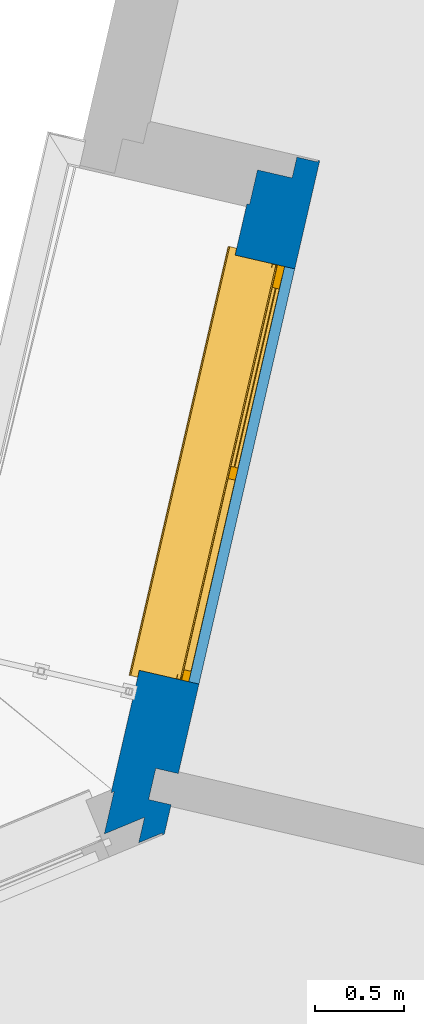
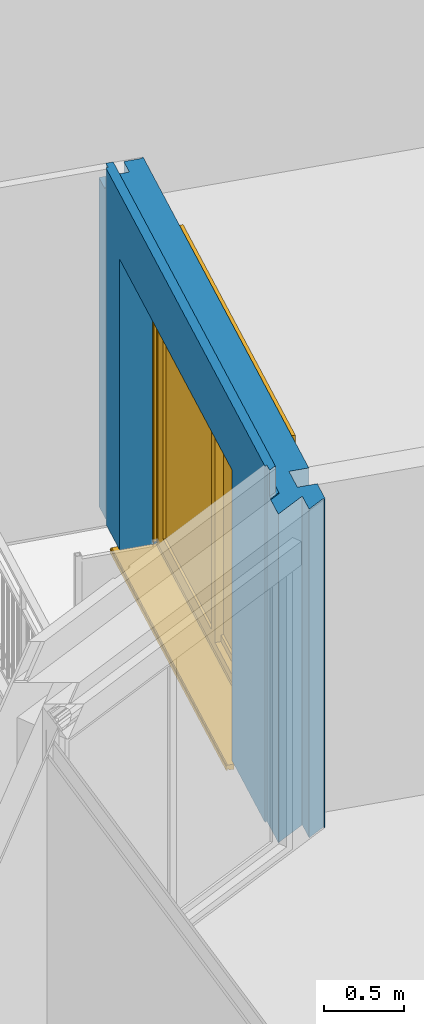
# One storey, part 18 of 91: 1 wall, 1 window, 1 opening.
"""IFC2X3 building model written with IfcOpenShell, lengths in metres."""

from ifc_helpers import new_model, entity, si_unit, converted_unit, derived_unit, money_unit, direction, frame, origin_with_axes, place, context, subcontext, project, spatial, open_shell, faceted_brep, surface_model, source, transform, mapped, material, material_list, type_object, element, fill, save


model = new_model("IFC2X3")

# Units and contexts
model_context = context("Model", 3, precision=1e-05, world=origin_with_axes(), true_north=direction((0.0, 1.0)))
body_context = subcontext(model_context, "Body", "Model", "MODEL_VIEW")
ifc_project = project(units=[si_unit("LENGTHUNIT", "METRE"), si_unit("AREAUNIT", "SQUARE_METRE"), si_unit("VOLUMEUNIT", "CUBIC_METRE"), converted_unit("PLANEANGLEUNIT", "DEGREE", entity("IfcPlaneAngleMeasure", 0.0174532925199), si_unit("PLANEANGLEUNIT", "RADIAN"), dimensions=[0, 0, 0, 0, 0, 0, 0]), si_unit("SOLIDANGLEUNIT", "STERADIAN"), money_unit("EUR"), converted_unit("TIMEUNIT", "Year", entity("IfcTimeMeasure", 31556926.0), si_unit("TIMEUNIT", "SECOND"), dimensions=[0, 0, 1, 0, 0, 0, 0]), si_unit("MASSUNIT", "GRAM", prefix="KILO"), si_unit("THERMODYNAMICTEMPERATUREUNIT", "DEGREE_CELSIUS"), si_unit("LUMINOUSINTENSITYUNIT", "LUMEN"), si_unit("ENERGYUNIT", "JOULE", prefix="MEGA"), derived_unit("THERMALCONDUCTANCEUNIT", [(si_unit("POWERUNIT", "WATT"), 1), (si_unit("LENGTHUNIT", "METRE"), -1), (si_unit("THERMODYNAMICTEMPERATUREUNIT", "KELVIN"), -1)]), derived_unit("SPECIFICHEATCAPACITYUNIT", [(si_unit("ENERGYUNIT", "JOULE"), 1), (si_unit("MASSUNIT", "GRAM", prefix="KILO"), -1), (si_unit("THERMODYNAMICTEMPERATUREUNIT", "KELVIN"), -1)]), derived_unit("MASSDENSITYUNIT", [(si_unit("MASSUNIT", "GRAM", prefix="KILO"), 1), (si_unit("VOLUMEUNIT", "CUBIC_METRE"), -1)])], contexts=[model_context])

# Site, building, storey
site_placement = place(None, origin_with_axes())
site = spatial("IfcSite", under=ifc_project, at=site_placement, Name="Site", CompositionType="ELEMENT")
building_placement = place(site_placement, origin_with_axes())
building = spatial("IfcBuilding", under=site, at=building_placement, Name="Bâtiment", CompositionType="ELEMENT")
storey_placement = place(building_placement, frame((0.0, 0.0, 5.44), z_axis=(0.0, 0.0, 1.0), x_axis=(1.0, 0.0, 0.0)))
storey = spatial("IfcBuildingStorey", under=building, at=storey_placement, Name="R+2", CompositionType="ELEMENT", Elevation=5.44)

# Wall, opening, window
ifc_material_1 = material(Name="Finition int - Plaque de plâtre")
ifc_material_2 = material(Name="Isolation - Polystyrène extrudé")
ifc_material_3 = material(Name="Bloc ELITHERM")
ifc_material_4 = material(Name="Mortier")
ifc_material_5 = material(Name="Béton cellulaire")
ifc_material_6 = material(Name="Finition ext - Crépis")
ifc_material_list = material_list([ifc_material_1, ifc_material_2, ifc_material_3, ifc_material_4, ifc_material_5, ifc_material_6])
wall_type = type_object("IfcWallType", Name="Mur ALKERN + planelle 21 345 x 2720", PredefinedType="USERDEFINED")
wall_placement = place(storey_placement, frame((-19.0200334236, -9.47366806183, 0.0), z_axis=(0.0, 0.0, 1.0), x_axis=(-0.224876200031, -0.974387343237, 0.0)))
wall = element("IfcWall", 1, at=wall_placement, inside=storey, type_object=wall_type, material=ifc_material_list, Name="Mue bloc ALKERN isolé", ObjectType="SOLIDWALL", context=body_context, shape_type="Brep", body=[
    faceted_brep([(3.54839986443, 0.34499998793, 0.0), (3.37853279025, 0.34499998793, 0.0), (3.37853279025, 0.34499998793, 2.50999999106), (3.54839986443, 0.34499998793, 2.51000000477), (3.55553862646, 0.335000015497, 0.0), (3.37853279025, 0.335000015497, 0.0), (3.37853279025, 0.335000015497, 2.50999999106), (3.55553862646, 0.335000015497, 2.51000000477)], [[[0, 1, 2, 3]], [[4, 5, 1, 0]], [[5, 6, 2, 1]], [[3, 2, 6, 7]], [[7, 4, 0, 3]], [[7, 6, 5, 4]]]),
    faceted_brep([(3.19853279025, 0.34499998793, 0.0), (-0.344999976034, 0.34499998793, 0.0), (-0.344999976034, 0.34499998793, 2.51000000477), (3.19853279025, 0.34499998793, 2.50999999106), (2.68107656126, 0.34499998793, 2.22), (2.68107656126, 0.34499998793, 2.4), (0.281076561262, 0.34499998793, 2.4), (0.281076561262, 0.34499998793, 2.22), (0.281076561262, 0.34499998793, 0.02), (2.68107656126, 0.34499998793, 0.02), (3.19853279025, 0.335000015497, 0.0), (-0.344999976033, 0.335000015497, 0.0), (-0.344999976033, 0.335000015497, 2.51000000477), (3.19853279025, 0.335000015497, 2.50999999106), (2.68107656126, 0.335000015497, 2.22), (2.68107656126, 0.335000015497, 2.4), (0.281076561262, 0.335000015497, 2.4), (0.281076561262, 0.335000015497, 2.22), (0.281076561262, 0.335000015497, 0.02), (2.68107656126, 0.335000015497, 0.02)], [[[0, 1, 2, 3], [4, 5, 6, 7, 8, 9]], [[10, 11, 1, 0]], [[12, 2, 1, 11]], [[3, 2, 12, 13]], [[3, 13, 10, 0]], [[5, 4, 14, 15]], [[6, 5, 15, 16]], [[7, 6, 16, 17]], [[7, 17, 18, 8]], [[8, 18, 19, 9]], [[14, 4, 9, 19]], [[13, 12, 11, 10], [15, 14, 19, 18, 17, 16]]]),
    faceted_brep([(3.54325200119, 0.335000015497, 0.0), (3.37853279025, 0.335000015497, 0.0), (3.37853279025, 0.335000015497, 2.50999999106), (3.54325200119, 0.335000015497, 2.51), (3.62891738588, 0.215000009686, 0.0), (3.37853279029, 0.215000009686, 0.0), (3.37853279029, 0.215000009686, 2.50999999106), (3.62891738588, 0.215000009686, 2.51)], [[[0, 1, 2, 3]], [[4, 5, 1, 0]], [[5, 6, 2, 1]], [[3, 2, 6, 7]], [[4, 0, 3, 7]], [[7, 6, 5, 4]]]),
    faceted_brep([(0.281076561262, 0.215000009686, 0.02), (0.281076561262, 0.215000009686, 0.0), (0.281076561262, 0.286, 0.0), (0.281076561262, 0.286, 0.02), (0.281076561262, 0.335000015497, 0.02), (0.281076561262, 0.335000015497, 2.22), (0.281076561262, 0.335000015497, 2.4), (0.281076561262, 0.215, 2.4), (0.281076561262, 0.215, 2.22), (2.68107656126, 0.215, 2.4), (2.68107656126, 0.215, 2.22), (2.68107656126, 0.215000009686, 0.02), (2.68107656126, 0.215000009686, 0.0), (3.19853279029, 0.215000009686, 0.0), (3.19853279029, 0.215000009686, 2.50999999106), (-0.335000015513, 0.215000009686, 2.51), (-0.335000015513, 0.215000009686, 0.0), (-0.335000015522, 0.335000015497, 0.0), (3.19853279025, 0.335000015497, 0.0), (2.68107656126, 0.286, 0.0), (2.68107656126, 0.286, 0.02), (2.68107656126, 0.335000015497, 0.02), (-0.335000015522, 0.335000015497, 2.51), (3.19853279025, 0.335000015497, 2.50999999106), (2.68107656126, 0.335000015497, 2.22), (2.68107656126, 0.335000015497, 2.4)], [[[0, 1, 2, 3, 4, 5, 6, 7, 8]], [[1, 0, 8, 7, 9, 10, 11, 12, 13, 14, 15, 16]], [[2, 1, 16, 17, 18, 13, 12, 19]], [[20, 3, 2, 19]], [[3, 20, 21, 4]], [[18, 17, 22, 23], [5, 4, 21, 24, 25, 6]], [[25, 9, 7, 6]], [[20, 19, 12, 11, 10, 9, 25, 24, 21]], [[13, 18, 23, 14]], [[23, 22, 15, 14]], [[16, 15, 22, 17]]]),
    faceted_brep([(0.281076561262, 0.214999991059, 2.22), (0.281076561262, 0.214999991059, 0.02), (0.281076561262, 0.214999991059, 0.0), (-0.215000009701, 0.214999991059, 0.0), (-0.215000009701, 0.214999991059, 2.51), (3.48147737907, 0.214999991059, 2.51), (3.48147737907, 0.214999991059, 0.0), (2.68107656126, 0.214999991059, 0.0), (2.68107656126, 0.214999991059, 0.02), (2.68107656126, 0.214999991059, 2.22), (0.281076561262, 0.015, 2.22), (0.281076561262, 0.015, 0.02), (0.281076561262, 0.015, 0.0), (-0.215000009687, 0.015, 0.0), (-0.215000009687, 0.015, 2.51), (-0.215000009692, 0.0829999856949, 2.51), (3.57570930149, 0.0829999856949, 2.51), (3.62425300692, 0.015, 2.51), (3.62425300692, 0.015, 0.0), (2.68107656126, 0.015, 0.0), (2.68107656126, 0.015, 0.02), (2.68107656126, 0.015, 2.22)], [[[0, 1, 2, 3, 4, 5, 6, 7, 8, 9]], [[10, 11, 12, 2, 1, 0]], [[3, 2, 12, 13]], [[13, 14, 15, 4, 3]], [[15, 16, 5, 4]], [[17, 18, 6, 5, 16]], [[18, 19, 7, 6]], [[9, 8, 7, 19, 20, 21]], [[0, 9, 21, 10]], [[13, 12, 11, 10, 21, 20, 19, 18, 17, 14]], [[14, 17, 16, 15]]]),
    faceted_brep([(-0.0829999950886, 0.083, 2.51000000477), (-0.0829999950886, 0.083, 2.51999998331), (3.41352526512, 0.083, 2.51999998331), (3.41352526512, 0.083, 2.51000000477), (-0.0829999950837, 0.015, 2.51000000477), (-0.0829999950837, 0.015, 2.51999998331), (3.46206898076, 0.015, 2.51999998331), (3.46206898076, 0.015, 2.51000000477)], [[[0, 1, 2, 3]], [[1, 0, 4, 5]], [[1, 5, 6, 2]], [[3, 2, 6, 7]], [[4, 0, 3, 7]], [[5, 4, 7, 6]]]),
    faceted_brep([(-0.0630000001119, 0.0629999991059, 2.51999999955), (-0.0630000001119, 0.0629999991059, 2.72), (3.40322949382, 0.0629999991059, 2.72), (3.40322949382, 0.0629999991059, 2.51999999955), (-0.0630000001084, 0.015, 2.72), (-0.0630000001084, 0.015, 2.51999999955), (3.4374956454, 0.015, 2.72), (3.4374956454, 0.015, 2.51999999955)], [[[0, 1, 2, 3]], [[4, 1, 0, 5]], [[1, 4, 6, 2]], [[3, 2, 6, 7]], [[5, 0, 3, 7]], [[4, 5, 7, 6]]]),
    faceted_brep([(0.281076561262, 0.0149999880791, 0.02), (0.281076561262, 0.0149999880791, 0.0), (-0.0150000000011, 0.0149999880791, 0.0), (-0.0150000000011, 0.0149999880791, 2.72), (3.37851964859, 0.0149999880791, 2.72), (3.37851964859, 0.0149999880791, 0.0), (2.68107656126, 0.0149999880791, 0.0), (2.68107656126, 0.0149999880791, 0.02), (2.68107656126, 0.0149999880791, 2.22), (0.281076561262, 0.0149999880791, 2.22), (0.281076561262, 0.0, 0.02), (0.281076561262, 0.0, 0.0), (0.281076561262, 0.0, 2.22), (-0.015, 0.0, 0.0), (-0.015, 0.0, 2.72), (3.38922781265, 0.0, 2.72), (3.38922781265, 0.0, 0.0), (2.68107656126, 0.0, 0.0), (2.68107656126, 0.0, 0.02), (2.68107656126, 0.0, 2.22)], [[[0, 1, 2, 3, 4, 5, 6, 7, 8, 9]], [[10, 11, 1, 0, 9, 12]], [[1, 11, 13, 2]], [[3, 2, 13, 14]], [[14, 15, 4, 3]], [[15, 16, 5, 4]], [[17, 6, 5, 16]], [[7, 6, 17, 18, 19, 8]], [[8, 19, 12, 9]], [[11, 10, 12, 19, 18, 17, 16, 15, 14, 13]]]),
])
opening_placement = place(wall_placement, frame((1.48107656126, 0.0, 0.02), z_axis=(0.0, 0.0, 1.0), x_axis=(1.0, 0.0, 0.0)))
opening = element("IfcOpeningElement", 2, at=opening_placement, cuts=wall, Name="MEN 80", context=body_context, shape_type="Brep", body=[
    faceted_brep([(-1.2, 0.83499998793, 0.0), (1.2, 0.83499998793, 0.0), (1.2, 0.245, 0.0), (-1.2, 0.245, 0.0), (-1.2, 0.83499998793, 2.2), (1.2, 0.83499998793, 2.2), (1.2, 0.245, 2.2), (-1.2, 0.245, 2.2)], [[[0, 1, 2, 3]], [[0, 4, 5, 1]], [[1, 5, 6, 2]], [[3, 2, 6, 7]], [[4, 0, 3, 7]], [[5, 4, 7, 6]]]),
    faceted_brep([(-1.2, -0.34499998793, 0.0), (-1.2, -0.34499998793, 2.2), (-1.2, 0.245, 2.2), (-1.2, 0.245, 0.0), (1.2, -0.34499998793, 0.0), (1.2, -0.34499998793, 2.2), (1.2, 0.245, 2.2), (1.2, 0.245, 0.0)], [[[0, 1, 2, 3]], [[0, 4, 5, 1]], [[1, 5, 6, 2]], [[3, 2, 6, 7]], [[4, 0, 3, 7]], [[5, 4, 7, 6]]]),
    faceted_brep([(-1.2, -0.34499998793, 0.0), (-1.2, -0.34499998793, 2.2), (-1.2, 0.245, 2.2), (-1.2, 0.245, 0.0), (1.2, -0.34499998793, 0.0), (1.2, -0.34499998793, 2.2), (1.2, 0.245, 2.2), (1.2, 0.245, 0.0)], [[[0, 1, 2, 3]], [[0, 4, 5, 1]], [[1, 5, 6, 2]], [[3, 2, 6, 7]], [[4, 0, 3, 7]], [[5, 4, 7, 6]]]),
    faceted_brep([(-1.2, 0.80499998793, 2.2), (1.2, 0.80499998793, 2.2), (1.2, 0.215, 2.2), (-1.2, 0.215, 2.2), (-1.2, 0.80499998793, 2.38), (1.2, 0.80499998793, 2.38), (1.2, 0.215, 2.38), (-1.2, 0.215, 2.38)], [[[0, 1, 2, 3]], [[0, 4, 5, 1]], [[1, 5, 6, 2]], [[3, 2, 6, 7]], [[4, 0, 3, 7]], [[5, 4, 7, 6]]]),
    faceted_brep([(-1.2, -0.30399998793, 0.0), (1.2, -0.30399998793, 0.0), (1.2, 0.286, 0.0), (-1.2, 0.286, 0.0), (-1.2, -0.30399998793, -0.06), (1.2, -0.30399998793, -0.06), (1.2, 0.286, -0.06), (-1.2, 0.286, -0.06)], [[[0, 1, 2, 3]], [[0, 4, 5, 1]], [[1, 5, 6, 2]], [[3, 2, 6, 7]], [[4, 0, 3, 7]], [[5, 4, 7, 6]]]),
])
window_style = type_object("IfcWindowStyle", Name="Baie générique 2017 v2", ConstructionType="NOTDEFINED", OperationType="NOTDEFINED", ParameterTakesPrecedence=False, Sizeable=False)
shared_shape = source(origin_with_axes(), body_context, "Body", "SurfaceModel", [
    faceted_brep([(-1.2, 0.1, 0.0), (1.2, 0.1, 0.0), (1.2, 0.0, 0.0), (-1.2, 0.0, 0.0), (-1.2, 0.1, 2.2), (1.2, 0.1, 2.2), (-1.14, 0.1, 0.05), (1.14, 0.1, 0.05), (1.14, 0.1, 2.15), (-1.14, 0.1, 2.15), (1.2, 0.0, 2.2), (-1.2, 0.0, 2.2), (-1.14, 0.0, 0.05), (-1.14, 0.0, 2.15), (1.14, 0.0, 2.15), (1.14, 0.0, 0.05)], [[[0, 1, 2, 3]], [[0, 4, 5, 1], [6, 7, 8, 9]], [[1, 5, 10, 2]], [[3, 2, 10, 11], [12, 13, 14, 15]], [[4, 0, 3, 11]], [[5, 4, 11, 10]], [[7, 6, 12, 15]], [[8, 7, 15, 14]], [[9, 8, 14, 13]], [[6, 9, 13, 12]]]),
    faceted_brep([(-1.14, 0.04, 0.05), (-1.14, 0.04, 2.15), (0.035, 0.04, 2.15), (0.035, 0.04, 0.05), (-0.035, 0.04, 2.08), (-1.07, 0.04, 2.08), (-1.07, 0.04, 0.1), (-0.035, 0.04, 0.1), (-1.14, 0.0, 2.15), (-1.14, 0.02, 2.15), (-1.14, 0.02, 0.05), (-1.14, 0.0, 0.05), (0.035, 0.0, 2.15), (0.035, 0.02, 2.15), (0.035, 0.0, 0.05), (0.035, 0.02, 0.05), (-0.035, 0.0, 2.08), (-1.07, 0.0, 2.08), (-1.07, 0.0, 0.1), (-0.035, 0.0, 0.1)], [[[0, 1, 2, 3], [4, 5, 6, 7]], [[8, 9, 1, 0, 10, 11]], [[12, 13, 2, 1, 9, 8]], [[13, 12, 14, 15, 3, 2]], [[15, 14, 11, 10, 0, 3]], [[5, 4, 16, 17]], [[18, 6, 5, 17]], [[19, 7, 6, 18]], [[4, 7, 19, 16]], [[12, 8, 11, 14], [19, 18, 17, 16]]]),
    surface_model("IfcShellBasedSurfaceModel", [(-1.14, 0.04, 0.05), (-1.14, 0.04, 2.15), (0.035, 0.04, 2.15), (0.035, 0.04, 0.05), (-1.07, 0.04, 0.1), (-0.035, 0.04, 0.1), (-0.035, 0.04, 2.08), (-1.07, 0.04, 2.08)], [open_shell([[[0, 1, 2, 3], [4, 5, 6, 7]]])]),
    surface_model("IfcShellBasedSurfaceModel", [(-1.14, 0.0, 0.05), (-1.14, 0.0, 2.15), (0.035, 0.0, 2.15), (0.035, 0.0, 0.05), (-1.07, 0.0, 0.1), (-0.035, 0.0, 0.1), (-0.035, 0.0, 2.08), (-1.07, 0.0, 2.08)], [open_shell([[[0, 1, 2, 3], [4, 5, 6, 7]]])]),
    faceted_brep([(-1.07, 0.0225, 0.1), (-0.035, 0.0225, 0.1), (-0.035, 0.0175, 0.1), (-1.07, 0.0175, 0.1), (-1.07, 0.0225, 2.08), (-0.035, 0.0225, 2.08), (-0.035, 0.0175, 2.08), (-1.07, 0.0175, 2.08)], [[[0, 1, 2, 3]], [[0, 4, 5, 1]], [[1, 5, 6, 2]], [[3, 2, 6, 7]], [[4, 0, 3, 7]], [[5, 4, 7, 6]]]),
    faceted_brep([(-0.035, 0.08, 0.05), (-0.035, 0.08, 2.15), (1.14, 0.08, 2.15), (1.14, 0.08, 0.05), (1.07, 0.08, 2.08), (0.035, 0.08, 2.08), (0.035, 0.08, 0.1), (1.07, 0.08, 0.1), (-0.035, 0.04, 2.15), (-0.035, 0.06, 2.15), (-0.035, 0.06, 0.05), (-0.035, 0.04, 0.05), (1.14, 0.04, 2.15), (1.14, 0.06, 2.15), (1.14, 0.04, 0.05), (1.14, 0.06, 0.05), (1.07, 0.04, 2.08), (0.035, 0.04, 2.08), (0.035, 0.04, 0.1), (1.07, 0.04, 0.1)], [[[0, 1, 2, 3], [4, 5, 6, 7]], [[8, 9, 1, 0, 10, 11]], [[12, 13, 2, 1, 9, 8]], [[13, 12, 14, 15, 3, 2]], [[15, 14, 11, 10, 0, 3]], [[5, 4, 16, 17]], [[18, 6, 5, 17]], [[19, 7, 6, 18]], [[4, 7, 19, 16]], [[12, 8, 11, 14], [19, 18, 17, 16]]]),
    surface_model("IfcShellBasedSurfaceModel", [(-0.035, 0.08, 0.05), (-0.035, 0.08, 2.15), (1.14, 0.08, 2.15), (1.14, 0.08, 0.05), (0.035, 0.08, 0.1), (1.07, 0.08, 0.1), (1.07, 0.08, 2.08), (0.035, 0.08, 2.08)], [open_shell([[[0, 1, 2, 3], [4, 5, 6, 7]]])]),
    surface_model("IfcShellBasedSurfaceModel", [(-0.035, 0.04, 0.05), (-0.035, 0.04, 2.15), (1.14, 0.04, 2.15), (1.14, 0.04, 0.05), (0.035, 0.04, 0.1), (1.07, 0.04, 0.1), (1.07, 0.04, 2.08), (0.035, 0.04, 2.08)], [open_shell([[[0, 1, 2, 3], [4, 5, 6, 7]]])]),
    faceted_brep([(0.035, 0.0625, 0.1), (1.07, 0.0625, 0.1), (1.07, 0.0575, 0.1), (0.035, 0.0575, 0.1), (0.035, 0.0625, 2.08), (1.07, 0.0625, 2.08), (1.07, 0.0575, 2.08), (0.035, 0.0575, 2.08)], [[[0, 1, 2, 3]], [[0, 4, 5, 1]], [[1, 5, 6, 2]], [[3, 2, 6, 7]], [[4, 0, 3, 7]], [[5, 4, 7, 6]]]),
    faceted_brep([(-1.2, -0.03, 0.0), (-1.175, -0.03, 0.0), (-1.175, -0.03, 2.2), (-1.2, -0.03, 2.2), (-1.2, -0.002, 0.0), (-1.175, -0.002, 0.0), (-1.175, -0.004, 0.0), (-1.198, -0.004, 0.0), (-1.198, -0.028, 0.0), (-1.175, -0.028, 0.0), (-1.175, -0.028, 2.2), (-1.198, -0.028, 2.2), (-1.198, -0.004, 2.2), (-1.175, -0.004, 2.2), (-1.175, -0.002, 2.2), (-1.2, -0.002, 2.2)], [[[0, 1, 2, 3]], [[0, 4, 5, 6, 7, 8, 9, 1]], [[1, 9, 10, 2]], [[3, 2, 10, 11, 12, 13, 14, 15]], [[4, 0, 3, 15]], [[5, 4, 15, 14]], [[6, 5, 14, 13]], [[7, 6, 13, 12]], [[8, 7, 12, 11]], [[9, 8, 11, 10]]]),
    faceted_brep([(1.2, -0.03, 0.0), (1.2, -0.03, 2.2), (1.175, -0.03, 2.2), (1.175, -0.03, 0.0), (1.2, -0.002, 0.0), (1.2, -0.002, 2.2), (1.175, -0.002, 2.2), (1.175, -0.004, 2.2), (1.198, -0.004, 2.2), (1.198, -0.028, 2.2), (1.175, -0.028, 2.2), (1.175, -0.028, 0.0), (1.198, -0.028, 0.0), (1.198, -0.004, 0.0), (1.175, -0.004, 0.0), (1.175, -0.002, 0.0)], [[[0, 1, 2, 3]], [[4, 5, 1, 0]], [[1, 5, 6, 7, 8, 9, 10, 2]], [[3, 2, 10, 11]], [[0, 3, 11, 12, 13, 14, 15, 4]], [[15, 6, 5, 4]], [[14, 7, 6, 15]], [[13, 8, 7, 14]], [[12, 9, 8, 13]], [[11, 10, 9, 12]]]),
    faceted_brep([(1.198, -0.028, 2.2), (-1.198, -0.028, 2.2), (-1.198, -0.028, 2.378), (1.198, -0.028, 2.378), (1.198, -0.03, 2.2), (-1.198, -0.03, 2.2), (-1.198, -0.03, 2.38), (-1.198, 0.17, 2.38), (-1.198, 0.17, 2.2), (-1.198, 0.168, 2.2), (-1.198, 0.168, 2.378), (1.198, 0.168, 2.378), (1.198, 0.168, 2.2), (1.198, 0.17, 2.2), (1.198, 0.17, 2.38), (1.198, -0.03, 2.38)], [[[0, 1, 2, 3]], [[4, 5, 1, 0]], [[1, 5, 6, 7, 8, 9, 10, 2]], [[3, 2, 10, 11]], [[0, 3, 11, 12, 13, 14, 15, 4]], [[15, 6, 5, 4]], [[14, 7, 6, 15]], [[13, 8, 7, 14]], [[12, 9, 8, 13]], [[11, 10, 9, 12]]]),
    faceted_brep([(1.198, 0.0724697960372, 2.27436337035), (1.198, 0.08, 2.29), (1.198, 0.0724697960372, 2.30563662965), (1.198, 0.0555495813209, 2.30949855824), (1.198, 0.041980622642, 2.29867767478), (1.198, 0.041980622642, 2.28132232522), (1.198, 0.0555495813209, 2.27050144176), (-1.198, 0.0724697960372, 2.27436337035), (-1.198, 0.08, 2.29), (-1.198, 0.0724697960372, 2.30563662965), (-1.198, 0.0555495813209, 2.30949855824), (-1.198, 0.041980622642, 2.29867767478), (-1.198, 0.041980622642, 2.28132232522), (-1.198, 0.0555495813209, 2.27050144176)], [[[0, 1, 2, 3, 4, 5, 6]], [[0, 7, 8, 1]], [[1, 8, 9, 2]], [[2, 9, 10, 3]], [[3, 10, 11, 4]], [[4, 11, 12, 5]], [[5, 12, 13, 6]], [[6, 13, 7, 0]], [[7, 13, 12, 11, 10, 9, 8]]]),
    faceted_brep([(1.188, 0.130275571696, 2.25615706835), (1.188, 0.138, 2.29), (1.188, 0.130275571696, 2.32384293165), (1.188, 0.108632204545, 2.35098285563), (1.188, 0.0773566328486, 2.36604437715), (1.188, 0.0426433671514, 2.36604437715), (1.188, 0.011367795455, 2.35098285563), (1.188, -0.0102755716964, 2.32384293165), (1.188, -0.018, 2.29), (1.188, -0.0102755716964, 2.25615706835), (1.188, 0.011367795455, 2.22901714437), (1.188, 0.0426433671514, 2.21395562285), (1.188, 0.0773566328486, 2.21395562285), (1.188, 0.108632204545, 2.22901714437), (-1.188, 0.130275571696, 2.25615706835), (-1.188, 0.138, 2.29), (-1.188, 0.130275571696, 2.32384293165), (-1.188, 0.108632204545, 2.35098285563), (-1.188, 0.0773566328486, 2.36604437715), (-1.188, 0.0426433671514, 2.36604437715), (-1.188, 0.011367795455, 2.35098285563), (-1.188, -0.0102755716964, 2.32384293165), (-1.188, -0.018, 2.29), (-1.188, -0.0102755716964, 2.25615706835), (-1.188, 0.011367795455, 2.22901714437), (-1.188, 0.0426433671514, 2.21395562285), (-1.188, 0.0773566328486, 2.21395562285), (-1.188, 0.108632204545, 2.22901714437)], [[[0, 1, 2, 3, 4, 5, 6, 7, 8, 9, 10, 11, 12, 13]], [[0, 14, 15, 1]], [[1, 15, 16, 2]], [[2, 16, 17, 3]], [[3, 17, 18, 4]], [[4, 18, 19, 5]], [[5, 19, 20, 6]], [[6, 20, 21, 7]], [[7, 21, 22, 8]], [[8, 22, 23, 9]], [[9, 23, 24, 10]], [[10, 24, 25, 11]], [[11, 25, 26, 12]], [[12, 26, 27, 13]], [[13, 27, 14, 0]], [[14, 27, 26, 25, 24, 23, 22, 21, 20, 19, 18, 17, 16, 15]]]),
    faceted_brep([(1.2, 0.17, 2.2), (1.198, 0.17, 2.2), (1.198, 0.17, 2.38), (1.2, 0.17, 2.38), (1.2, -0.03, 2.2), (1.198, -0.03, 2.2), (1.198, -0.03, 2.38), (1.2, -0.03, 2.38)], [[[0, 1, 2, 3]], [[4, 5, 1, 0]], [[1, 5, 6, 2]], [[3, 2, 6, 7]], [[0, 3, 7, 4]], [[7, 6, 5, 4]]]),
    faceted_brep([(-1.198, 0.17, 2.2), (-1.2, 0.17, 2.2), (-1.2, 0.17, 2.38), (-1.198, 0.17, 2.38), (-1.198, -0.03, 2.2), (-1.2, -0.03, 2.2), (-1.2, -0.03, 2.38), (-1.198, -0.03, 2.38)], [[[0, 1, 2, 3]], [[4, 5, 1, 0]], [[1, 5, 6, 2]], [[3, 2, 6, 7]], [[0, 3, 7, 4]], [[7, 6, 5, 4]]]),
    faceted_brep([(1.198, -0.004, 2.2), (-1.198, -0.004, 2.2), (-1.198, 0.168, 2.2), (1.198, 0.168, 2.2), (1.198, -0.004, 2.202), (-1.198, -0.004, 2.202), (-1.198, 0.168, 2.202), (1.198, 0.168, 2.202)], [[[0, 1, 2, 3]], [[4, 5, 1, 0]], [[1, 5, 6, 2]], [[3, 2, 6, 7]], [[0, 3, 7, 4]], [[7, 6, 5, 4]]]),
    faceted_brep([(-1.188, -0.006, 2.2), (-1.188, -0.006, 2.29), (1.188, -0.006, 2.29), (1.188, -0.006, 2.2), (-1.188, -0.026, 2.2), (-1.188, -0.026, 2.29), (1.188, -0.026, 2.29), (1.188, -0.026, 2.2)], [[[0, 1, 2, 3]], [[1, 0, 4, 5]], [[2, 1, 5, 6]], [[3, 2, 6, 7]], [[4, 0, 3, 7]], [[5, 4, 7, 6]]]),
    faceted_brep([(1.2, -0.00167949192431, -0.01), (1.2, 0.0, -0.00373205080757), (1.24, 0.0, -0.00373205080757), (1.24, 0.001, 0.0), (-1.24, 0.001, 0.0), (-1.24, 0.0, -0.00373205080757), (-1.2, 0.0, -0.00373205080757), (-1.2, -0.00167949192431, -0.01), (1.2, -0.009, -0.0173205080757), (1.2, -0.019, -0.02), (1.2, -0.245, -0.02), (1.2, -0.245, -0.06), (1.2, 0.0, -0.06), (1.24, 0.0, -0.06), (1.24, 0.041, -0.06), (1.24, 0.041, 0.0), (-1.24, 0.041, 0.0), (-1.24, 0.041, -0.06), (-1.24, 0.0, -0.06), (-1.2, 0.0, -0.06), (-1.2, -0.245, -0.02), (-1.2, -0.019, -0.02), (-1.2, -0.009, -0.0173205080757), (-1.2, -0.245, -0.06), (-1.24, -0.245, -0.02), (-1.24, -0.285, -0.02), (1.24, -0.285, -0.02), (1.24, -0.245, -0.02), (1.24, -0.245, -0.06), (1.24, -0.275, -0.06), (-1.24, -0.275, -0.06), (-1.24, -0.245, -0.06), (-1.24, -0.295, -0.03), (-1.24, -0.292071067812, -0.0229289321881), (-1.24, -0.275, -0.05), (-1.24, -0.285, -0.05), (-1.24, -0.285, -0.06), (-1.24, -0.295, -0.06), (1.24, -0.292071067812, -0.0229289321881), (1.24, -0.295, -0.03), (1.24, -0.295, -0.06), (1.24, -0.285, -0.06), (1.24, -0.285, -0.05), (1.24, -0.275, -0.05)], [[[0, 1, 2, 3, 4, 5, 6, 7]], [[1, 0, 8, 9, 10, 11, 12]], [[13, 2, 1, 12]], [[2, 13, 14, 15, 3]], [[16, 4, 3, 15]], [[4, 16, 17, 18, 5]], [[5, 18, 19, 6]], [[20, 21, 22, 7, 6, 19, 23]], [[8, 0, 7, 22]], [[9, 8, 22, 21]], [[10, 9, 21, 20, 24, 25, 26, 27]], [[10, 27, 28, 11]], [[11, 28, 29, 30, 31, 23, 19, 18, 17, 14, 13, 12]], [[17, 16, 15, 14]], [[20, 23, 31, 24]], [[32, 33, 25, 24, 31, 30, 34, 35, 36, 37]], [[25, 33, 38, 26]], [[28, 27, 26, 38, 39, 40, 41, 42, 43, 29]], [[34, 30, 29, 43]], [[33, 32, 39, 38]], [[35, 34, 43, 42]], [[36, 35, 42, 41]], [[37, 36, 41, 40]], [[32, 37, 40, 39]]]),
])
window_placement = place(opening_placement, frame((-1.2, 0.0, 0.0), z_axis=(0.0, 0.0, 1.0), x_axis=(1.0, 0.0, 0.0)))
window = element("IfcWindow", 3, at=window_placement, inside=storey, type_object=window_style, Name="MEN 80", ObjectType="WINDOW", OverallHeight=2.2, OverallWidth=2.4, context=body_context, shape_type="MappedRepresentation", body=[
    mapped(shared_shape, transform((1.2, 0.245, 0.0))),
])
fill(opening, window)

save(model, "model.ifc")
